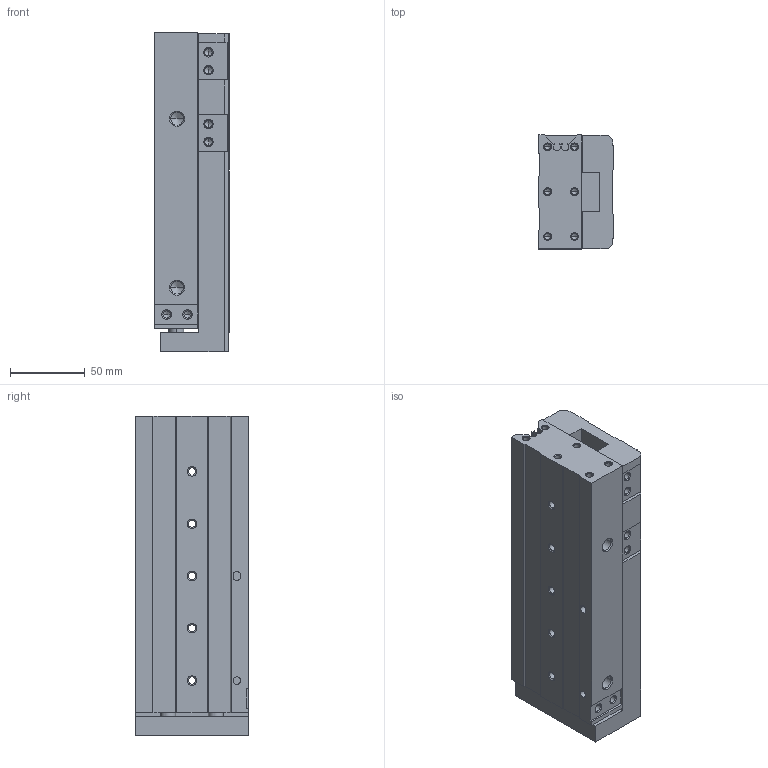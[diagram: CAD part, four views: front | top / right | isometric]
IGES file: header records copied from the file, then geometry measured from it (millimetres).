
Global section: file name: No Iges File Name specified; native system: Autodesk Inventor 2011; preprocessor: AutoDesk Inventor Iges Exporter R2011; author: airolcr1; date: 20110310.120042; units: millimetre
Bounding box: 50 x 76 x 214 mm (x, y, z)
Volume: 720231.4 mm3; surface area: 128997.4 mm2
Topology: 2 solids, 2 shells, 276 faces, 688 edges, 404 vertices
Faces by surface type: bspline 178, plane 82, revolution 12, cylinder 4
